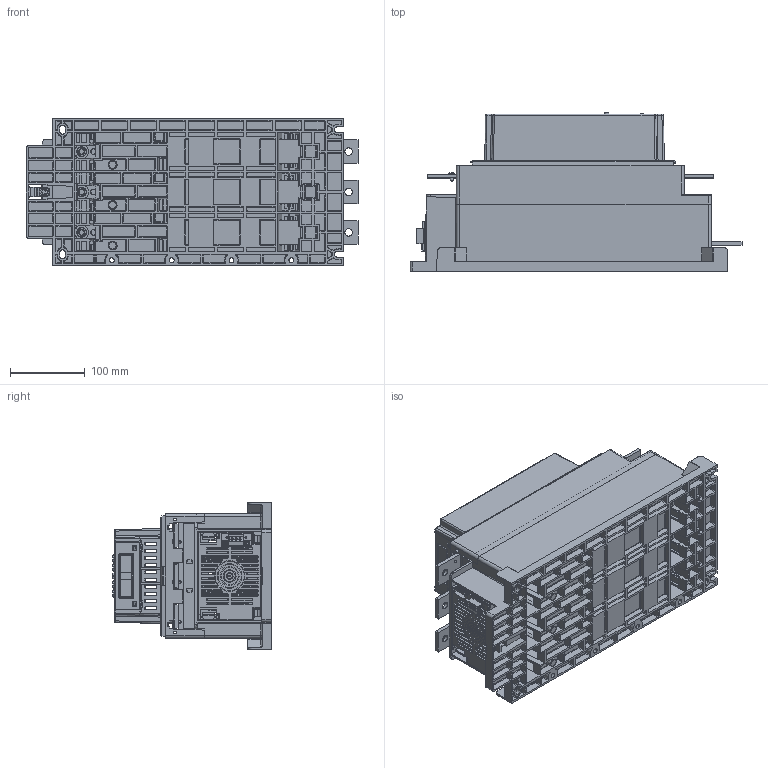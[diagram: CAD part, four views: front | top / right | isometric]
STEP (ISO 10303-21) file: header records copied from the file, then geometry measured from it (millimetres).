
FILE_DESCRIPTION((''),'2;1');
FILE_NAME('150-F_FS1_ASM','2016-03-21T',('RGRushme'),('Rockwell Automation'),'PRO/ENGINEER BY PARAMETRIC TECHNOLOGY CORPORATION, 2012480','PRO/ENGINEER BY PARAMETRIC TECHNOLOGY CORPORATION, 2012480','');
FILE_SCHEMA(('CONFIG_CONTROL_DESIGN'));
Products named in the file (1): 150-F_FS1_ASM
Bounding box: 443.69 x 212.22 x 196.62 mm (x, y, z)
Surface area: 1269178.9 mm2 (no closed solid volume)
Topology: 0 solids, 173 shells, 5277 faces, 20339 edges, 14820 vertices
Faces by surface type: plane 2908, cylinder 1687, cone 297, bspline 171, torus 148, sphere 66
Entity records: 225619 total; most frequent: CARTESIAN_POINT 64550, ORIENTED_EDGE 32737, DIRECTION 28975, EDGE_CURVE 20275, VERTEX_POINT 14820, VECTOR 13793, LINE 13793, AXIS2_PLACEMENT_3D 7591
